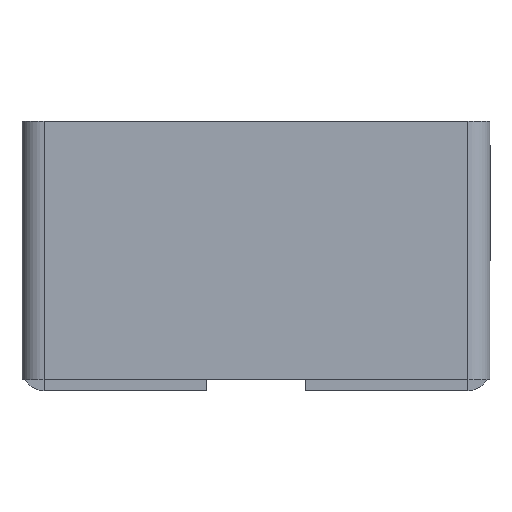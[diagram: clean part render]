
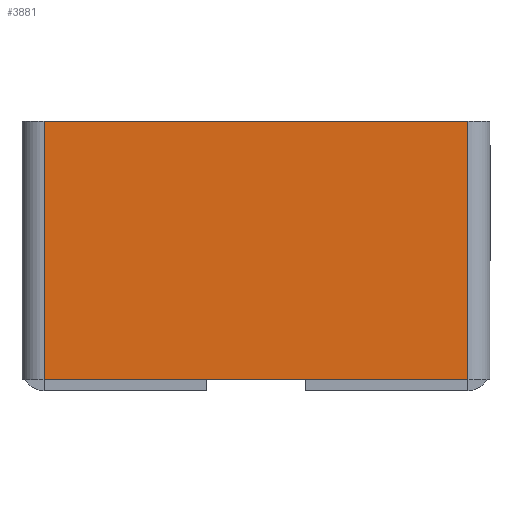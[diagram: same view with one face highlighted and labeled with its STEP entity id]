
A CAD part, front view. The second image highlights one B-rep face of the part: STEP entity #3881.
In plain terms, the highlighted planar face has unit normal (0, -1, 0).
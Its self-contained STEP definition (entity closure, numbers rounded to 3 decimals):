
#137 = CARTESIAN_POINT ( 'NONE',  ( -50., -2.5, -58. ) ) ;
#270 = DIRECTION ( 'NONE',  ( 1., 0., 0. ) ) ;
#394 = VECTOR ( 'NONE', #7873, 1000. ) ;
#844 = EDGE_CURVE ( 'NONE', #5345, #4272, #8193, .T. ) ;
#1456 = LINE ( 'NONE', #6919, #4720 ) ;
#1465 = EDGE_CURVE ( 'NONE', #4578, #6688, #1456, .T. ) ;
#1515 = DIRECTION ( 'NONE',  ( -1., 0., 0. ) ) ;
#1629 = LINE ( 'NONE', #2658, #394 ) ;
#1638 = AXIS2_PLACEMENT_3D ( 'NONE', #7700, #5098, #5757 ) ;
#1781 = ORIENTED_EDGE ( 'NONE', *, *, #1465, .F. ) ;
#2325 = EDGE_CURVE ( 'NONE', #5345, #6688, #6455, .T. ) ;
#2658 = CARTESIAN_POINT ( 'NONE',  ( -47.5, -2.5, 0. ) ) ;
#2672 = EDGE_CURVE ( 'NONE', #4578, #4272, #1629, .T. ) ;
#3114 = ORIENTED_EDGE ( 'NONE', *, *, #2672, .T. ) ;
#3152 = FACE_OUTER_BOUND ( 'NONE', #5945, .T. ) ;
#3359 = ORIENTED_EDGE ( 'NONE', *, *, #844, .F. ) ;
#3626 = CARTESIAN_POINT ( 'NONE',  ( 47.5, -2.5, -58. ) ) ;
#3836 = PLANE ( 'NONE',  #1638 ) ;
#3859 = CARTESIAN_POINT ( 'NONE',  ( 47.5, -2.5, -58. ) ) ;
#3881 = ADVANCED_FACE ( 'NONE', ( #3152 ), #3836, .F. ) ;
#4073 = CARTESIAN_POINT ( 'NONE',  ( -47.5, -2.5, -58. ) ) ;
#4272 = VERTEX_POINT ( 'NONE', #4073 ) ;
#4578 = VERTEX_POINT ( 'NONE', #5212 ) ;
#4703 = VECTOR ( 'NONE', #8136, 1000. ) ;
#4720 = VECTOR ( 'NONE', #270, 1000. ) ;
#5098 = DIRECTION ( 'NONE',  ( 0., 1., 0. ) ) ;
#5212 = CARTESIAN_POINT ( 'NONE',  ( -47.5, -2.5, 0. ) ) ;
#5345 = VERTEX_POINT ( 'NONE', #3859 ) ;
#5757 = DIRECTION ( 'NONE',  ( 0., 0., 1. ) ) ;
#5945 = EDGE_LOOP ( 'NONE', ( #3114, #3359, #7248, #1781 ) ) ;
#6031 = CARTESIAN_POINT ( 'NONE',  ( 47.5, -2.5, 0. ) ) ;
#6455 = LINE ( 'NONE', #3626, #4703 ) ;
#6688 = VERTEX_POINT ( 'NONE', #6031 ) ;
#6919 = CARTESIAN_POINT ( 'NONE',  ( -50., -2.5, 0. ) ) ;
#7248 = ORIENTED_EDGE ( 'NONE', *, *, #2325, .T. ) ;
#7380 = VECTOR ( 'NONE', #1515, 1000. ) ;
#7700 = CARTESIAN_POINT ( 'NONE',  ( 0., -2.5, 0. ) ) ;
#7873 = DIRECTION ( 'NONE',  ( 0., 0., -1. ) ) ;
#8136 = DIRECTION ( 'NONE',  ( 0., 0., 1. ) ) ;
#8193 = LINE ( 'NONE', #137, #7380 ) ;
